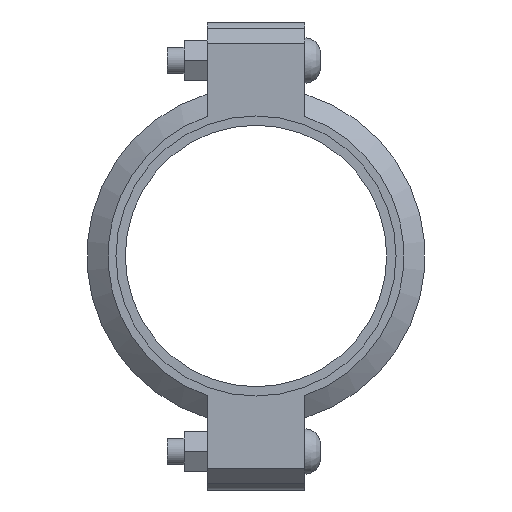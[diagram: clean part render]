
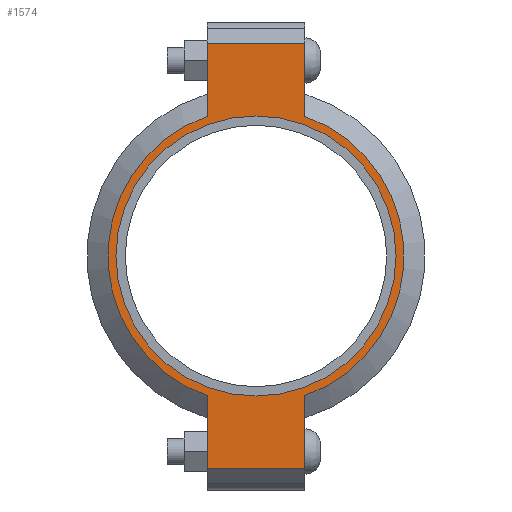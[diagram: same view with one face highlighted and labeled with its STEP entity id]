
A CAD part, left-side view. The second image highlights one B-rep face of the part: STEP entity #1574.
In plain terms, the highlighted planar face has unit normal (-1, 0, 0) as drawn and (0, 0, 1) by its records, which use the part's own axes.
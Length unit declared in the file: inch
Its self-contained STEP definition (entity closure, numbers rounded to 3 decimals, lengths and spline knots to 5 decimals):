
#198=LINE('',#2747,#291);
#206=LINE('',#2783,#299);
#213=LINE('',#2804,#306);
#222=LINE('',#2836,#315);
#223=LINE('',#2840,#316);
#224=LINE('',#2842,#317);
#291=VECTOR('',#2235,0.3937);
#299=VECTOR('',#2251,0.3937);
#306=VECTOR('',#2270,0.3937);
#315=VECTOR('',#2295,0.3937);
#316=VECTOR('',#2300,0.3937);
#317=VECTOR('',#2301,0.3937);
#373=FACE_BOUND('',#551,.T.);
#445=FACE_OUTER_BOUND('',#550,.T.);
#550=EDGE_LOOP('',(#1315,#1316,#1317,#1318,#1319,#1320,#1321,#1322));
#551=EDGE_LOOP('',(#1323));
#623=CIRCLE('',#1793,3.3125);
#649=CIRCLE('',#1852,3.5);
#650=CIRCLE('',#1853,3.5);
#715=VERTEX_POINT('',#2563);
#758=VERTEX_POINT('',#2744);
#759=VERTEX_POINT('',#2746);
#770=VERTEX_POINT('',#2778);
#771=VERTEX_POINT('',#2782);
#778=VERTEX_POINT('',#2801);
#779=VERTEX_POINT('',#2803);
#789=VERTEX_POINT('',#2839);
#790=VERTEX_POINT('',#2841);
#871=EDGE_CURVE('',#715,#715,#623,.T.);
#932=EDGE_CURVE('',#759,#758,#198,.T.);
#946=EDGE_CURVE('',#771,#770,#206,.T.);
#956=EDGE_CURVE('',#779,#778,#213,.T.);
#971=EDGE_CURVE('',#771,#758,#222,.T.);
#972=EDGE_CURVE('',#770,#779,#649,.T.);
#973=EDGE_CURVE('',#789,#778,#223,.T.);
#974=EDGE_CURVE('',#789,#790,#224,.T.);
#975=EDGE_CURVE('',#790,#759,#650,.T.);
#1315=ORIENTED_EDGE('',*,*,#971,.F.);
#1316=ORIENTED_EDGE('',*,*,#946,.T.);
#1317=ORIENTED_EDGE('',*,*,#972,.T.);
#1318=ORIENTED_EDGE('',*,*,#956,.T.);
#1319=ORIENTED_EDGE('',*,*,#973,.F.);
#1320=ORIENTED_EDGE('',*,*,#974,.T.);
#1321=ORIENTED_EDGE('',*,*,#975,.T.);
#1322=ORIENTED_EDGE('',*,*,#932,.T.);
#1323=ORIENTED_EDGE('',*,*,#871,.T.);
#1416=PLANE('',#1851);
#1574=ADVANCED_FACE('',(#445,#373),#1416,.T.);
#1793=AXIS2_PLACEMENT_3D('',#2565,#2111,#2112);
#1851=AXIS2_PLACEMENT_3D('',#2837,#2296,#2297);
#1852=AXIS2_PLACEMENT_3D('',#2838,#2298,#2299);
#1853=AXIS2_PLACEMENT_3D('',#2843,#2302,#2303);
#2111=DIRECTION('center_axis',(0.,0.,-1.));
#2112=DIRECTION('ref_axis',(-1.,0.,0.));
#2235=DIRECTION('',(-1.,0.,0.));
#2251=DIRECTION('',(1.,0.,0.));
#2270=DIRECTION('',(1.,0.,0.));
#2295=DIRECTION('',(0.,1.,0.));
#2296=DIRECTION('center_axis',(0.,0.,1.));
#2297=DIRECTION('ref_axis',(1.,0.,0.));
#2298=DIRECTION('center_axis',(0.,0.,1.));
#2299=DIRECTION('ref_axis',(-1.,0.,0.));
#2300=DIRECTION('',(0.,-1.,0.));
#2301=DIRECTION('',(-1.,0.,0.));
#2302=DIRECTION('center_axis',(0.,0.,1.));
#2303=DIRECTION('ref_axis',(-1.,0.,0.));
#2563=CARTESIAN_POINT('',(3.3125,0.,1.065));
#2565=CARTESIAN_POINT('Origin',(0.,0.,1.065));
#2744=CARTESIAN_POINT('',(-5.035,1.156,1.065));
#2746=CARTESIAN_POINT('',(-3.30358,1.156,1.065));
#2747=CARTESIAN_POINT('',(-5.535,1.156,1.065));
#2778=CARTESIAN_POINT('',(-3.30358,-1.156,1.065));
#2782=CARTESIAN_POINT('',(-5.035,-1.156,1.065));
#2783=CARTESIAN_POINT('',(5.535,-1.156,1.065));
#2801=CARTESIAN_POINT('',(5.035,-1.156,1.065));
#2803=CARTESIAN_POINT('',(3.30358,-1.156,1.065));
#2804=CARTESIAN_POINT('',(5.535,-1.156,1.065));
#2836=CARTESIAN_POINT('',(-5.035,0.578,1.065));
#2837=CARTESIAN_POINT('Origin',(0.,0.,1.065));
#2838=CARTESIAN_POINT('Origin',(0.,0.,1.065));
#2839=CARTESIAN_POINT('',(5.035,1.156,1.065));
#2840=CARTESIAN_POINT('',(5.035,-0.578,1.065));
#2841=CARTESIAN_POINT('',(3.30358,1.156,1.065));
#2842=CARTESIAN_POINT('',(-5.535,1.156,1.065));
#2843=CARTESIAN_POINT('Origin',(0.,0.,1.065));
